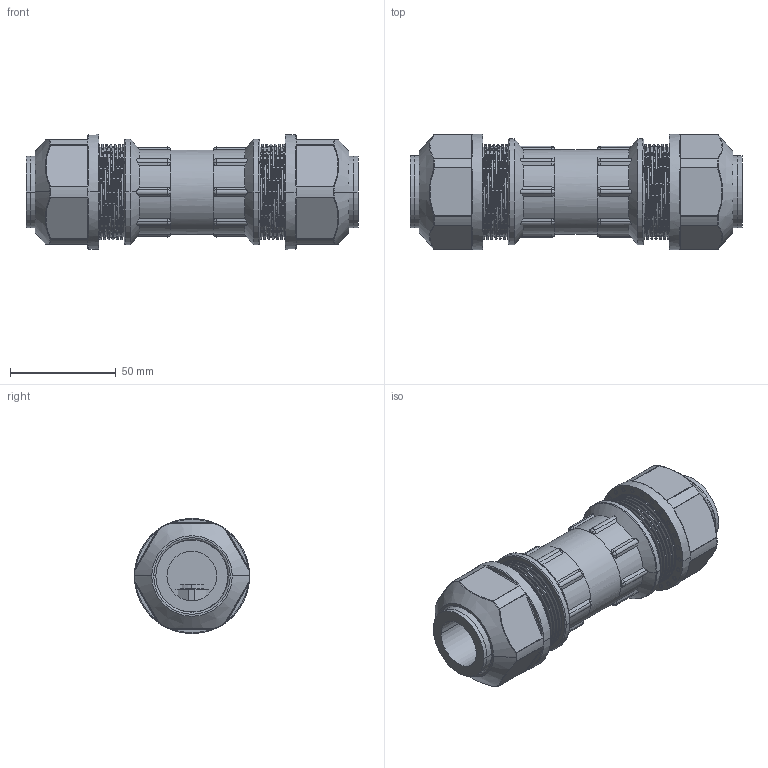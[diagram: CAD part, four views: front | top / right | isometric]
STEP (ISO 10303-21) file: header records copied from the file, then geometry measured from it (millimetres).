
FILE_DESCRIPTION(('Creo Elements/Direct Modeling STEP Export'),'2;1');
FILE_NAME('H05-0040-CL901_OA-QW30S.stp','2012-09-19T14:33:50',(''),(''),'Creo Elements/Direct Modeling STEP processor for AP214 (Solid Model)','Creo Elements/Direct Modeling 18.0B 02-Dec-2011 (C) Parametric Technology GmbH','');
FILE_SCHEMA(('AUTOMOTIVE_DESIGN { 1 0 10303 214 1 1 1 1 }'));
Length unit declared in the file: millimetre
Products named in the file (16): OA-QW30S_本体; OA-QW30S_接続ガイド; M10x20六角ボルト; M10スプリングワッシャー; M10ナット; M10平ワッシャー; 接続ガイド; G36-30A_L; G36-30B_L; G36-30; L側; G36-30A_R; G36-30B_R; R側; OA-QW30S
Assembly tree (15 placements, depth 4):
  OA-QW30S
    R側
      G36-30
        G36-30B_R
        G36-30A_R
    L側
      G36-30
        G36-30B_L
        G36-30A_L
    接続ガイド
      M10平ワッシャー
      M10ナット
      M10スプリングワッシャー
      M10x20六角ボルト
      OA-QW30S_接続ガイド
    OA-QW30S_本体
Bounding box: 157 x 54.48 x 54.42 mm (x, y, z)
Volume: 49351.2 mm3; surface area: 100887.4 mm2
Topology: 9 solids, 10 shells, 881 faces, 2114 edges, 1304 vertices
Faces by surface type: cylinder 343, plane 301, bspline 119, cone 56, torus 46, sphere 16
Entity records: 41169 total; most frequent: CARTESIAN_POINT 23178, ORIENTED_EDGE 4176, DIRECTION 2972, EDGE_CURVE 2088, VERTEX_POINT 1304, AXIS2_PLACEMENT_3D 1135, EDGE_LOOP 952, FACE_OUTER_BOUND 865
